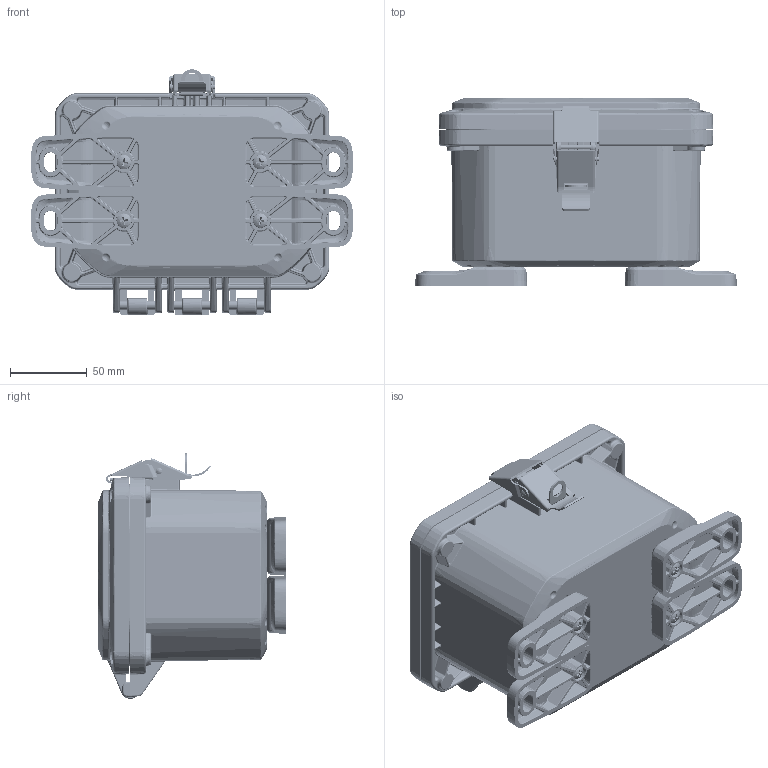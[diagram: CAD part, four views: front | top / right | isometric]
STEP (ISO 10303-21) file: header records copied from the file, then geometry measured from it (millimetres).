
FILE_DESCRIPTION (( 'STEP AP214' ), '1' );
FILE_NAME ('ZH-060404-05.STEP', '2024-10-25T16:21:13', ( '' ), ( '' ), 'SwSTEP 2.0', 'SolidWorks 2024', '' );
FILE_SCHEMA (( 'AUTOMOTIVE_DESIGN' ));
Length unit declared in the file: inch
Products named in the file (17): ZH-01L2; Z_-06043B_ZH-06043B-01; ZH-01L5; ZH-01L; ZH-01L1; ZH-01F_ZH-01F-01; ZH-0604G; ZH-01L3; INSERTS-4; ZH-01L4; ZH-060404-05; LABEL-104; Z_-06041CG_ZH-06041CG-02; Z_-06041C_ZH-06041C-02; Z_-06043BI_ZH-06043BI-01; ZH-95P_DEFAULT; SCREWS-046_SCREWS-046
Assembly tree (36 placements, depth 3):
  ZH-060404-05
    Z_-06043BI_ZH-06043BI-01
      Z_-06043B_ZH-06043B-01
      INSERTS-4  x12
      LABEL-104
    Z_-06041CG_ZH-06041CG-02
      Z_-06041C_ZH-06041C-02
      ZH-0604G
    ZH-95P_DEFAULT  x4
    ZH-01L
      ZH-01L1
      ZH-01L2
      ZH-01L3
      ZH-01L4
      ZH-01L5
    ZH-01F_ZH-01F-01  x4
    SCREWS-046_SCREWS-046  x4
Bounding box: 209.55 x 122.68 x 159.98 mm (x, y, z)
Volume: 540016.8 mm3; surface area: 324514.2 mm2
Topology: 37 solids, 37 shells, 8283 faces, 20146 edges, 11866 vertices
Faces by surface type: bspline 2723, plane 1628, cylinder 1610, cone 1172, torus 904, sphere 246
Entity records: 249003 total; most frequent: CARTESIAN_POINT 143888, ORIENTED_EDGE 24112, DIRECTION 19500, EDGE_CURVE 12056, AXIS2_PLACEMENT_3D 8163, VERTEX_POINT 7034, EDGE_LOOP 5270, ADVANCED_FACE 5135
